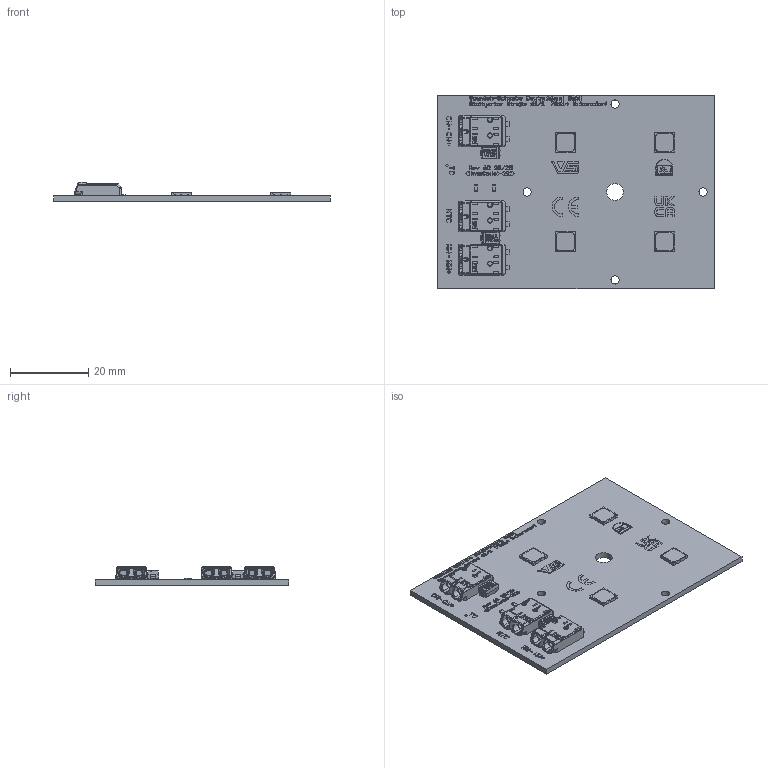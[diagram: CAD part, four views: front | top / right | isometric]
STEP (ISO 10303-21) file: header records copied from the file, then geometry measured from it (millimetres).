
FILE_DESCRIPTION(('Creo Elements/Direct Modeling STEP Export'),'2;1');
FILE_NAME('3D-Model_WU-M-630-L_4-TW.stp','2025-08-04T11:42:04',(''),(''),'PTC Creo Elements/Direct Modeling STEP processor for AP214 (Solid Model)','PTC Creo Elements/Direct Modeling 19.0E 27-Jun-2016 (C) Parametric Technology GmbH','');
FILE_SCHEMA(('AUTOMOTIVE_DESIGN { 1 0 10303 214 1 1 1 1 }'));
Length unit declared in the file: millimetre
Products named in the file (140): p1; Print.5; Print.15; Print.3; Print.14; Print.1; Print.13; Print.10; Print.16; Print.11; Print.6; Print.7; Print.9; Print.12; Print; Print.4; Print.8; Print.2; Print.19; Print.17; Print.18; Print.20; Print.23; Print.22; Print.21; Print.25; Print.26; Print.24; Print.114; Print.118; Print.106; Print.99; Print.94; Print.93; Print.116; Print.110; Print.102; Print.112; Print.108; Print.115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
Assembly tree (136 placements, depth 2):
  p1
  _Print
    Print.37
    Print.66
    Print.74
    Print.43
    Print.51
    Print.82
    Print.35
    Print.32
    Print.67
    Print.41
    Print.78
    Print.77
    Print.45
    Print.48
    Print.52
    Print.86
    Print.47
    Print.72
    Print.42
    Print.68
    Print.83
    Print.49
    Print.84
    Print.87
    Print.81
    Print.58
    Print.88
    Print.71
    Print.79
    Print.75
    Print.59
    Print.80
    Print.33
    Print.38
    Print.50
    Print.85
    Print.30
    Print.62
    Print.27
    Print.53
    Print.57
    Print.46
    Print.40
    Print.34
    Print.56
    Print.36
    Print.65
    Print.63
    Print.73
    Print.61
    Print.98
    Print.90
    Print.92
    Print.107
    Print.120
    Print.96
    Print.103
    Print.101
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Bounding box: 70.6 x 49.5 x 4.95 mm (x, y, z)
Volume: 5401.6 mm3; surface area: 9311.9 mm2
Topology: 134 solids, 137 shells, 4943 faces, 13037 edges, 8490 vertices
Faces by surface type: plane 3220, cylinder 1118, bspline 297, extrusion 110, cone 90, sphere 60, torus 48
Entity records: 189127 total; most frequent: CARTESIAN_POINT 39049, ORIENTED_EDGE 23370, DIRECTION 21636, EDGE_CURVE 11687, VECTOR 8872, LINE 8762, VERTEX_POINT 7659, AXIS2_PLACEMENT_3D 6382
